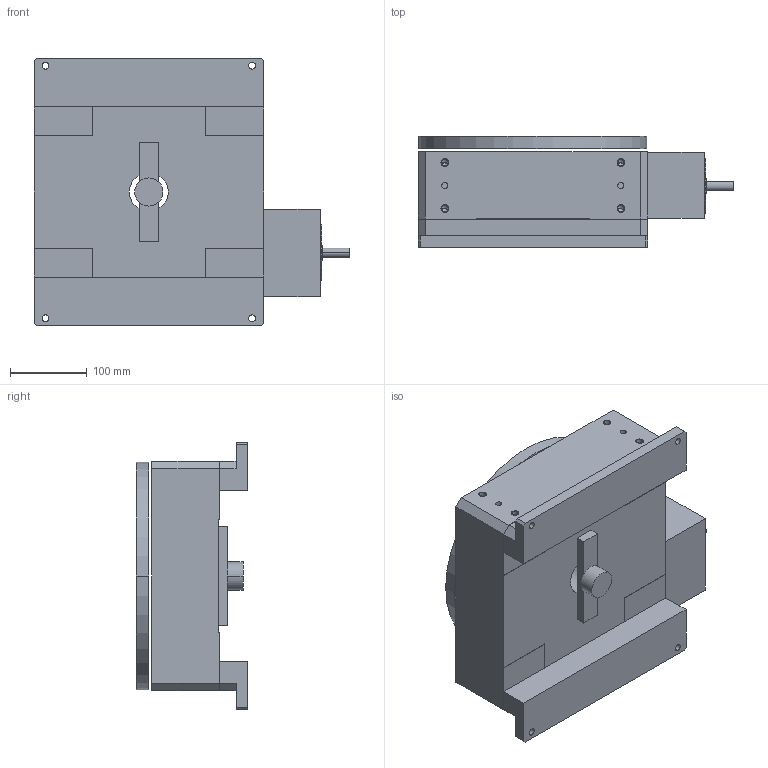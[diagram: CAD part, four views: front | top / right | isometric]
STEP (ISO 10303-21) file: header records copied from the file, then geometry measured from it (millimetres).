
FILE_DESCRIPTION((''),'2;1');
FILE_NAME('R300M9M00E1_ASM','2009-07-02T',('FK20128'),(''),'PRO/ENGINEER BY PARAMETRIC TECHNOLOGY CORPORATION, 2006200','PRO/ENGINEER BY PARAMETRIC TECHNOLOGY CORPORATION, 2006200','');
FILE_SCHEMA(('CONFIG_CONTROL_DESIGN'));
Length unit declared in the file: millimetre
Products named in the file (6): R300M; R300M-ENCODER-BRKT; R300M-ENCODER-STANDOFF; RXXXM-ENCODER; R300M-E1_ASM; R300M9M00E1_ASM
Assembly tree (6 placements, depth 3):
  R300M9M00E1_ASM
    R300M
    R300M-E1_ASM
      R300M-ENCODER-BRKT
      R300M-ENCODER-STANDOFF  x2
      RXXXM-ENCODER
Bounding box: 412.77 x 145.13 x 350 mm (x, y, z)
Volume: 10558512.7 mm3; surface area: 647323.6 mm2
Topology: 6 solids, 24 shells, 246 faces, 604 edges, 404 vertices
Faces by surface type: cylinder 132, plane 100, cone 14
Entity records: 6711 total; most frequent: DIRECTION 1272, CARTESIAN_POINT 1116, ORIENTED_EDGE 980, EDGE_CURVE 522, AXIS2_PLACEMENT_3D 512, VERTEX_POINT 356, EDGE_LOOP 294, CIRCLE 274
